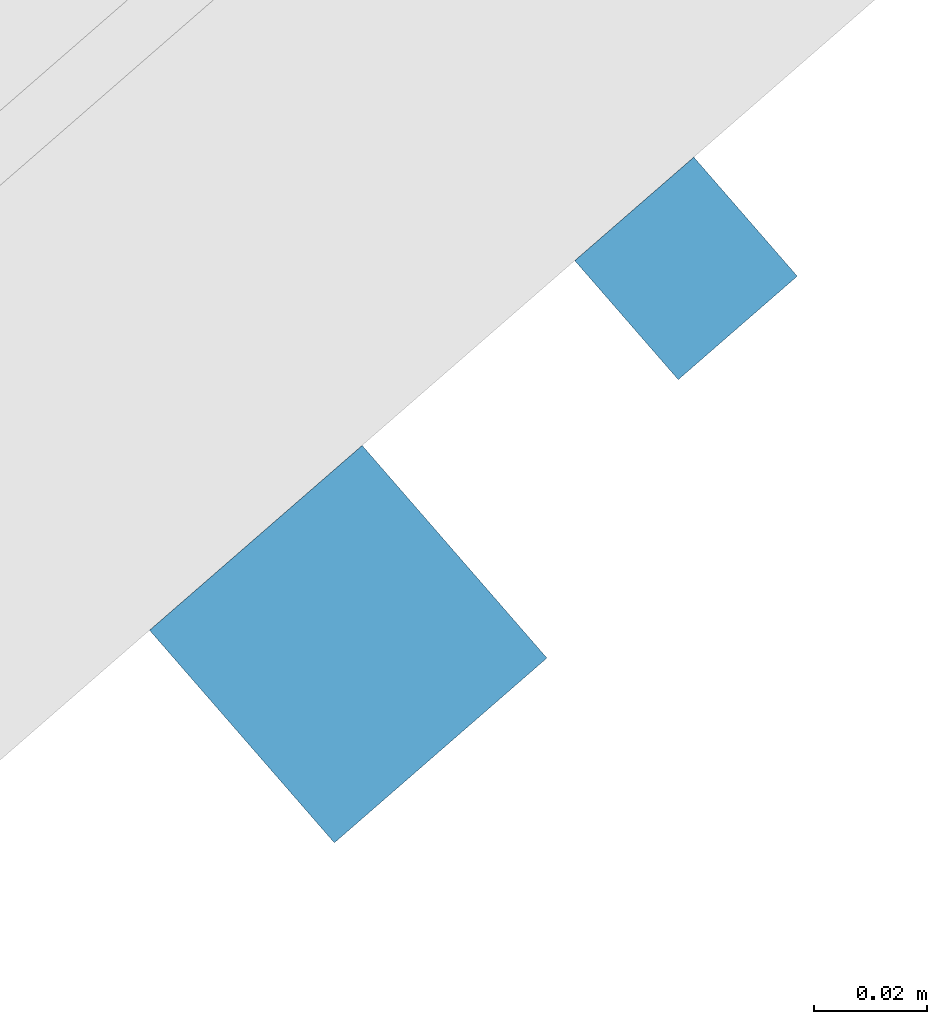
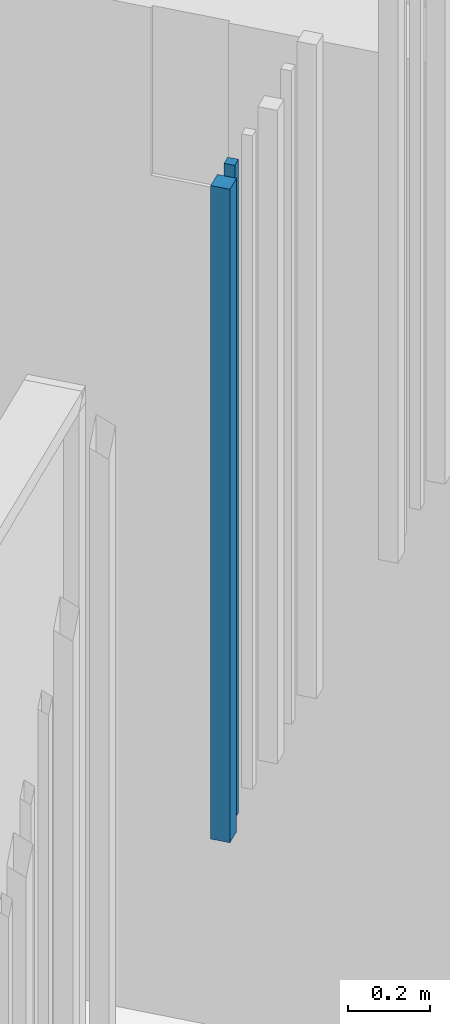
# One storey, part 38 of 124: 2 walls.
"""IFC2X3 building model written with IfcOpenShell, lengths in millimetres."""

from ifc_helpers import new_model, entity, si_unit, converted_unit, derived_unit, money_unit, direction, frame, origin_with_axes, place, context, subcontext, project, spatial, faceted_brep, material, type_object, element, save


model = new_model("IFC2X3")

# Units and contexts
model_context = context("Model", 3, precision=1e-05, world=origin_with_axes(), true_north=direction((0.0, 1.0)))
body_context = subcontext(model_context, "Body", "Model", "MODEL_VIEW")
ifc_project = project(units=[si_unit("LENGTHUNIT", "METRE", prefix="MILLI"), si_unit("AREAUNIT", "SQUARE_METRE"), si_unit("VOLUMEUNIT", "CUBIC_METRE"), converted_unit("PLANEANGLEUNIT", "DEGREE", entity("IfcPlaneAngleMeasure", 0.0174532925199), si_unit("PLANEANGLEUNIT", "RADIAN"), dimensions=[0, 0, 0, 0, 0, 0, 0]), si_unit("SOLIDANGLEUNIT", "STERADIAN"), money_unit("EUR"), converted_unit("TIMEUNIT", "Year", entity("IfcTimeMeasure", 31556926.0), si_unit("TIMEUNIT", "SECOND"), dimensions=[0, 0, 1, 0, 0, 0, 0]), si_unit("MASSUNIT", "GRAM", prefix="KILO"), si_unit("THERMODYNAMICTEMPERATUREUNIT", "DEGREE_CELSIUS"), si_unit("LUMINOUSINTENSITYUNIT", "LUMEN"), si_unit("ENERGYUNIT", "JOULE", prefix="MEGA"), derived_unit("THERMALCONDUCTANCEUNIT", [(si_unit("POWERUNIT", "WATT"), 1), (si_unit("LENGTHUNIT", "METRE"), -1), (si_unit("THERMODYNAMICTEMPERATUREUNIT", "KELVIN"), -1)]), derived_unit("SPECIFICHEATCAPACITYUNIT", [(si_unit("ENERGYUNIT", "JOULE"), 1), (si_unit("MASSUNIT", "GRAM", prefix="KILO"), -1), (si_unit("THERMODYNAMICTEMPERATUREUNIT", "KELVIN"), -1)]), derived_unit("MASSDENSITYUNIT", [(si_unit("MASSUNIT", "GRAM", prefix="KILO"), 1), (si_unit("VOLUMEUNIT", "CUBIC_METRE"), -1)])], contexts=[model_context])

# Site, building, storey
site_placement = place(None, origin_with_axes())
site = spatial("IfcSite", under=ifc_project, at=site_placement, Name="Site", CompositionType="ELEMENT")
building_placement = place(site_placement, origin_with_axes())
building = spatial("IfcBuilding", under=site, at=building_placement, Name="Building", CompositionType="ELEMENT")
storey_placement = place(building_placement, frame((0.0, 0.0, -1615.0), z_axis=(0.0, 0.0, 1.0), x_axis=(1.0, 0.0, 0.0)))
storey = spatial("IfcBuildingStorey", under=building, at=storey_placement, Name="0  korrus", CompositionType="ELEMENT", Elevation=-1615.0)

# Walls
ifc_material = material(Name="Site specified")
wall_type = type_object("IfcWallType", Name="Puitfassaadi ribistik", PredefinedType="NOTDEFINED")
wall_1_placement = place(storey_placement, frame((154059.802319, 78567.3347832, 9530.0), z_axis=(0.0, 0.0, 1.0), x_axis=(-0.754709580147, -0.656059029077, 0.0)))
element("IfcWall", 1, at=wall_1_placement, inside=storey, type_object=wall_type, material=ifc_material, Name="Site specified", context=body_context, shape_type="Brep", body=[
    faceted_brep([(14.0, 14.0, 1950.0), (14.0, 14.0, 0.0), (-14.0, 14.0, 0.0), (-14.0, 14.0, 1950.0), (14.0, -14.0, 1950.0), (14.0, -14.0, 0.0), (-14.0, -14.0, 0.0), (-14.0, -14.0, 1950.0)], [[[0, 1, 2, 3]], [[4, 5, 1, 0]], [[2, 1, 5, 6]], [[3, 2, 6, 7]], [[4, 0, 3, 7]], [[7, 6, 5, 4]]]),
])
wall_2_placement = place(storey_placement, frame((153999.847423, 78500.6416442, 9530.0), z_axis=(0.0, 0.0, 1.0), x_axis=(-0.754709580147, -0.656059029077, 0.0)))
element("IfcWall", 2, at=wall_2_placement, inside=storey, type_object=wall_type, material=ifc_material, Name="Site specified", context=body_context, shape_type="Brep", body=[
    faceted_brep([(25.0, 25.0, 1950.0), (25.0, 25.0, 0.0), (-25.0, 25.0, 0.0), (-25.0, 25.0, 1950.0), (25.0, -25.0, 1950.0), (25.0, -25.0, 0.0), (-25.0, -25.0, 0.0), (-25.0, -25.0, 1950.0)], [[[0, 1, 2, 3]], [[4, 5, 1, 0]], [[2, 1, 5, 6]], [[3, 2, 6, 7]], [[4, 0, 3, 7]], [[7, 6, 5, 4]]]),
])

save(model, "model.ifc")
